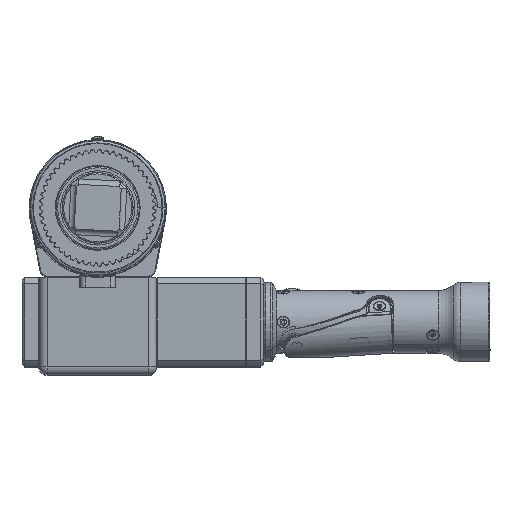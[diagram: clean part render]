
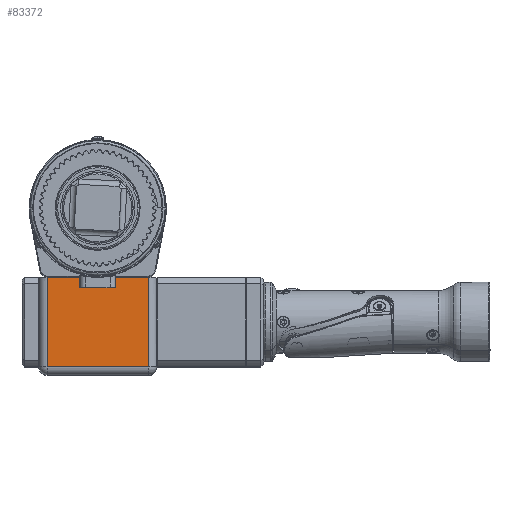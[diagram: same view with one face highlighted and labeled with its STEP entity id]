
A CAD part, top view. The second image highlights one B-rep face of the part: STEP entity #83372.
In plain terms, the highlighted planar face has unit normal (0, 0, 1).
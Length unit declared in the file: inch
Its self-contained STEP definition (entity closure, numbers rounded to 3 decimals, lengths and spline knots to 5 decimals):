
#1521 = ORIENTED_EDGE ( 'NONE', *, *, #64728, .T. ) ;
#5263 = LINE ( 'NONE', #138782, #84260 ) ;
#5641 = CARTESIAN_POINT ( 'NONE',  ( -0.375, -1.76, 0.0005 ) ) ;
#6807 = VERTEX_POINT ( 'NONE', #158465 ) ;
#7036 = CIRCLE ( 'NONE', #125153, 0.01 ) ;
#9022 = LINE ( 'NONE', #46074, #30347 ) ;
#10356 = DIRECTION ( 'NONE',  ( 0., -1., 0. ) ) ;
#11270 = ORIENTED_EDGE ( 'NONE', *, *, #54162, .T. ) ;
#14877 = VECTOR ( 'NONE', #64109, 39.37008 ) ;
#16346 = CARTESIAN_POINT ( 'NONE',  ( -0.375, -1.53, 0.0005 ) ) ;
#16384 = PLANE ( 'NONE',  #157779 ) ;
#17943 = VERTEX_POINT ( 'NONE', #123593 ) ;
#19294 = LINE ( 'NONE', #68481, #150079 ) ;
#20411 = VECTOR ( 'NONE', #10356, 39.37008 ) ;
#23143 = EDGE_CURVE ( 'NONE', #66692, #82472, #112523, .T. ) ;
#23376 = EDGE_CURVE ( 'NONE', #82472, #6807, #97951, .T. ) ;
#23999 = VECTOR ( 'NONE', #100514, 39.37008 ) ;
#26303 = DIRECTION ( 'NONE',  ( 1., 0., 0. ) ) ;
#27015 = LINE ( 'NONE', #149226, #14877 ) ;
#30347 = VECTOR ( 'NONE', #36331, 39.37008 ) ;
#32493 = ORIENTED_EDGE ( 'NONE', *, *, #39411, .F. ) ;
#34351 = CIRCLE ( 'NONE', #139608, 0.01 ) ;
#35846 = CARTESIAN_POINT ( 'NONE',  ( -1.125, -1.53, 0.0005 ) ) ;
#36331 = DIRECTION ( 'NONE',  ( 1., 0., 0. ) ) ;
#36752 = ORIENTED_EDGE ( 'NONE', *, *, #23143, .F. ) ;
#36791 = CARTESIAN_POINT ( 'NONE',  ( 1.3125, -1.53, 0.0005 ) ) ;
#39053 = EDGE_CURVE ( 'NONE', #17943, #95540, #5263, .T. ) ;
#39059 = EDGE_CURVE ( 'NONE', #133968, #118229, #27015, .T. ) ;
#39411 = EDGE_CURVE ( 'NONE', #58177, #73270, #9022, .T. ) ;
#46074 = CARTESIAN_POINT ( 'NONE',  ( 0.375, -1.77, 0.0005 ) ) ;
#46603 = CARTESIAN_POINT ( 'NONE',  ( 0.365, -1.76, 0.0005 ) ) ;
#49884 = CARTESIAN_POINT ( 'NONE',  ( 0.375, -1.53, 0.0005 ) ) ;
#54162 = EDGE_CURVE ( 'NONE', #58177, #81890, #34351, .T. ) ;
#55158 = CARTESIAN_POINT ( 'NONE',  ( -0.365, -1.76, 0.0005 ) ) ;
#55165 = ORIENTED_EDGE ( 'NONE', *, *, #39059, .F. ) ;
#56749 = EDGE_LOOP ( 'NONE', ( #32493, #11270, #152988, #55165, #82220, #146440, #1521, #158557, #36752, #74578 ) ) ;
#57353 = CARTESIAN_POINT ( 'NONE',  ( -1.3125, -1.53, 0.0005 ) ) ;
#57473 = VECTOR ( 'NONE', #26303, 39.37008 ) ;
#58177 = VERTEX_POINT ( 'NONE', #130434 ) ;
#64109 = DIRECTION ( 'NONE',  ( 1., 0., 0. ) ) ;
#64728 = EDGE_CURVE ( 'NONE', #95540, #6807, #19294, .T. ) ;
#66692 = VERTEX_POINT ( 'NONE', #144556 ) ;
#67689 = CARTESIAN_POINT ( 'NONE',  ( 1.125, -3.53, 0.0005 ) ) ;
#68481 = CARTESIAN_POINT ( 'NONE',  ( 1.125, -1.56, 0.0005 ) ) ;
#73270 = VERTEX_POINT ( 'NONE', #108255 ) ;
#73987 = CARTESIAN_POINT ( 'NONE',  ( -1.125, -3.53, 0.0005 ) ) ;
#74578 = ORIENTED_EDGE ( 'NONE', *, *, #128806, .T. ) ;
#81537 = DIRECTION ( 'NONE',  ( -1., 0., 0. ) ) ;
#81890 = VERTEX_POINT ( 'NONE', #5641 ) ;
#82220 = ORIENTED_EDGE ( 'NONE', *, *, #126650, .T. ) ;
#82472 = VERTEX_POINT ( 'NONE', #146863 ) ;
#83372 = ADVANCED_FACE ( 'NONE', ( #150659 ), #16384, .F. ) ;
#83477 = LINE ( 'NONE', #85057, #142182 ) ;
#84260 = VECTOR ( 'NONE', #112247, 39.37008 ) ;
#84405 = LINE ( 'NONE', #73987, #20411 ) ;
#85057 = CARTESIAN_POINT ( 'NONE',  ( -0.375, -1.77, 0.0005 ) ) ;
#95540 = VERTEX_POINT ( 'NONE', #67689 ) ;
#95615 = DIRECTION ( 'NONE',  ( -1., 0., 0. ) ) ;
#95893 = DIRECTION ( 'NONE',  ( 0., 0., -1. ) ) ;
#97951 = LINE ( 'NONE', #36791, #57473 ) ;
#100514 = DIRECTION ( 'NONE',  ( 0., 1., 0. ) ) ;
#103778 = DIRECTION ( 'NONE',  ( 0., 1., 0. ) ) ;
#104170 = DIRECTION ( 'NONE',  ( 0., 0., -1. ) ) ;
#108255 = CARTESIAN_POINT ( 'NONE',  ( 0.365, -1.77, 0.0005 ) ) ;
#112247 = DIRECTION ( 'NONE',  ( 1., 0., 0. ) ) ;
#112523 = LINE ( 'NONE', #49884, #23999 ) ;
#118167 = DIRECTION ( 'NONE',  ( 0., 0., -1. ) ) ;
#118229 = VERTEX_POINT ( 'NONE', #16346 ) ;
#123593 = CARTESIAN_POINT ( 'NONE',  ( -1.125, -3.53, 0.0005 ) ) ;
#125153 = AXIS2_PLACEMENT_3D ( 'NONE', #46603, #118167, #95615 ) ;
#126650 = EDGE_CURVE ( 'NONE', #133968, #17943, #84405, .T. ) ;
#128806 = EDGE_CURVE ( 'NONE', #66692, #73270, #7036, .T. ) ;
#130434 = CARTESIAN_POINT ( 'NONE',  ( -0.365, -1.77, 0.0005 ) ) ;
#132440 = DIRECTION ( 'NONE',  ( 0., -1., 0. ) ) ;
#133968 = VERTEX_POINT ( 'NONE', #35846 ) ;
#138782 = CARTESIAN_POINT ( 'NONE',  ( 1.125, -3.53, 0.0005 ) ) ;
#139608 = AXIS2_PLACEMENT_3D ( 'NONE', #55158, #104170, #140085 ) ;
#140085 = DIRECTION ( 'NONE',  ( -1., 0., 0. ) ) ;
#142182 = VECTOR ( 'NONE', #132440, 39.37008 ) ;
#144556 = CARTESIAN_POINT ( 'NONE',  ( 0.375, -1.76, 0.0005 ) ) ;
#146440 = ORIENTED_EDGE ( 'NONE', *, *, #39053, .T. ) ;
#146863 = CARTESIAN_POINT ( 'NONE',  ( 0.375, -1.53, 0.0005 ) ) ;
#149226 = CARTESIAN_POINT ( 'NONE',  ( 1.3125, -1.53, 0.0005 ) ) ;
#150079 = VECTOR ( 'NONE', #103778, 39.37008 ) ;
#150659 = FACE_OUTER_BOUND ( 'NONE', #56749, .T. ) ;
#152988 = ORIENTED_EDGE ( 'NONE', *, *, #153701, .F. ) ;
#153701 = EDGE_CURVE ( 'NONE', #118229, #81890, #83477, .T. ) ;
#157779 = AXIS2_PLACEMENT_3D ( 'NONE', #57353, #95893, #81537 ) ;
#158465 = CARTESIAN_POINT ( 'NONE',  ( 1.125, -1.53, 0.0005 ) ) ;
#158557 = ORIENTED_EDGE ( 'NONE', *, *, #23376, .F. ) ;
